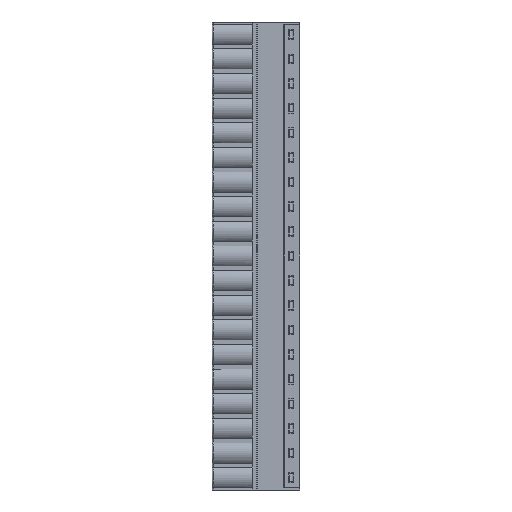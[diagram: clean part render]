
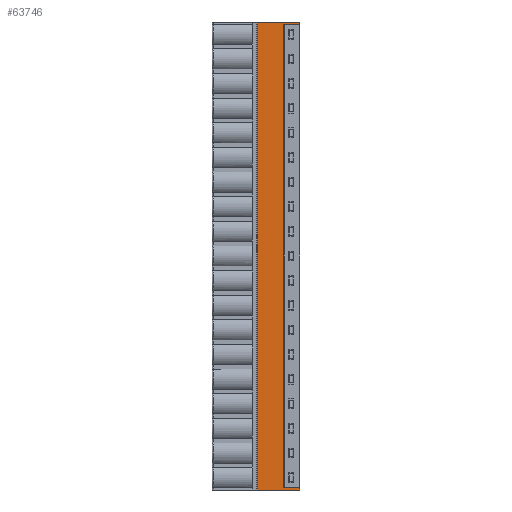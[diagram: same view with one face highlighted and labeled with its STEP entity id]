
A CAD part, left-side view. The second image highlights one B-rep face of the part: STEP entity #63746.
In plain terms, the highlighted planar face has unit normal (-1, 0, 0).
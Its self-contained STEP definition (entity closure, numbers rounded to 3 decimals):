
#365 = EDGE_CURVE ( 'NONE', #5732, #69005, #15734, .T. ) ;
#760 = VERTEX_POINT ( 'NONE', #12657 ) ;
#1983 = CARTESIAN_POINT ( 'NONE',  ( -3.9, 0.967, 0.49 ) ) ;
#2983 = DIRECTION ( 'NONE',  ( -1., 0., 0. ) ) ;
#5732 = VERTEX_POINT ( 'NONE', #14782 ) ;
#6236 = ORIENTED_EDGE ( 'NONE', *, *, #365, .T. ) ;
#6829 = LINE ( 'NONE', #12301, #55159 ) ;
#8298 = CARTESIAN_POINT ( 'NONE',  ( -3.9, 2.9, 0.49 ) ) ;
#9269 = CARTESIAN_POINT ( 'NONE',  ( -3.9, 3.167, 96.028 ) ) ;
#12301 = CARTESIAN_POINT ( 'NONE',  ( -3.9, 8.8, 96.52 ) ) ;
#12657 = CARTESIAN_POINT ( 'NONE',  ( -3.9, 3.3, 96.028 ) ) ;
#13417 = B_SPLINE_CURVE_WITH_KNOTS ( 'NONE', 3,
 ( #66199, #36158, #65428, #59944 ),
 .UNSPECIFIED., .F., .F.,
 ( 4, 4 ),
 ( 0., 1. ),
 .UNSPECIFIED. ) ;
#13698 = CARTESIAN_POINT ( 'NONE',  ( -3.9, 0., 0.49 ) ) ;
#14243 = ORIENTED_EDGE ( 'NONE', *, *, #45095, .F. ) ;
#14329 = CARTESIAN_POINT ( 'NONE',  ( -3.9, 3.033, 96.029 ) ) ;
#14782 = CARTESIAN_POINT ( 'NONE',  ( -3.9, 2.9, 96.03 ) ) ;
#15734 = B_SPLINE_CURVE_WITH_KNOTS ( 'NONE', 3,
 ( #25199, #55262, #25589, #54879 ),
 .UNSPECIFIED., .F., .F.,
 ( 4, 4 ),
 ( 0., 1. ),
 .UNSPECIFIED. ) ;
#16308 = CARTESIAN_POINT ( 'NONE',  ( -3.9, 8.8, 96.52 ) ) ;
#18303 = B_SPLINE_CURVE_WITH_KNOTS ( 'NONE', 3,
 ( #48042, #30474, #1983, #13698 ),
 .UNSPECIFIED., .F., .F.,
 ( 4, 4 ),
 ( 0., 1. ),
 .UNSPECIFIED. ) ;
#18622 = CARTESIAN_POINT ( 'NONE',  ( -3.9, 0., 0.49 ) ) ;
#20402 = DIRECTION ( 'NONE',  ( 0., 0., -1. ) ) ;
#21160 = DIRECTION ( 'NONE',  ( 0., 0., -1. ) ) ;
#22597 = CARTESIAN_POINT ( 'NONE',  ( -3.9, 3.3, 0.492 ) ) ;
#22909 = EDGE_CURVE ( 'NONE', #64968, #34967, #54743, .T. ) ;
#22940 = CARTESIAN_POINT ( 'NONE',  ( -3.9, 0., 96.52 ) ) ;
#23756 = LINE ( 'NONE', #36644, #34625 ) ;
#24367 = DIRECTION ( 'NONE',  ( 0., -1., 0. ) ) ;
#24561 = ORIENTED_EDGE ( 'NONE', *, *, #52170, .T. ) ;
#25180 = VECTOR ( 'NONE', #20402, 1000. ) ;
#25199 = CARTESIAN_POINT ( 'NONE',  ( -3.9, 2.9, 96.03 ) ) ;
#25589 = CARTESIAN_POINT ( 'NONE',  ( -3.9, 0.967, 96.03 ) ) ;
#26327 = VECTOR ( 'NONE', #57914, 1000. ) ;
#26395 = EDGE_CURVE ( 'NONE', #49536, #69005, #23756, .T. ) ;
#26418 = CARTESIAN_POINT ( 'NONE',  ( -3.9, 2.9, 96.03 ) ) ;
#26725 = EDGE_CURVE ( 'NONE', #59320, #50063, #13417, .T. ) ;
#27922 = DIRECTION ( 'NONE',  ( 0., 0., 1. ) ) ;
#28107 = VECTOR ( 'NONE', #31335, 1000. ) ;
#28457 = ORIENTED_EDGE ( 'NONE', *, *, #22909, .T. ) ;
#28624 = CARTESIAN_POINT ( 'NONE',  ( -3.9, 8.8, 0. ) ) ;
#30474 = CARTESIAN_POINT ( 'NONE',  ( -3.9, 1.933, 0.49 ) ) ;
#31167 = DIRECTION ( 'NONE',  ( 0., 0., -1. ) ) ;
#31335 = DIRECTION ( 'NONE',  ( 0., 0., -1. ) ) ;
#33289 = CARTESIAN_POINT ( 'NONE',  ( -3.9, 0., 0.49 ) ) ;
#33332 = EDGE_CURVE ( 'NONE', #760, #59320, #45774, .T. ) ;
#34111 = LINE ( 'NONE', #28624, #26327 ) ;
#34126 = AXIS2_PLACEMENT_3D ( 'NONE', #46276, #2983, #27922 ) ;
#34625 = VECTOR ( 'NONE', #31167, 1000. ) ;
#34967 = VERTEX_POINT ( 'NONE', #65541 ) ;
#36158 = CARTESIAN_POINT ( 'NONE',  ( -3.9, 3.167, 0.492 ) ) ;
#36644 = CARTESIAN_POINT ( 'NONE',  ( -3.9, 0., 96.52 ) ) ;
#41193 = CARTESIAN_POINT ( 'NONE',  ( -3.9, 0., 0. ) ) ;
#41788 = ORIENTED_EDGE ( 'NONE', *, *, #60991, .F. ) ;
#42000 = ORIENTED_EDGE ( 'NONE', *, *, #57088, .F. ) ;
#45095 = EDGE_CURVE ( 'NONE', #58202, #63902, #74270, .T. ) ;
#45774 = LINE ( 'NONE', #75789, #53532 ) ;
#45888 = FACE_OUTER_BOUND ( 'NONE', #65281, .T. ) ;
#46276 = CARTESIAN_POINT ( 'NONE',  ( -3.9, 8.9, 0. ) ) ;
#48042 = CARTESIAN_POINT ( 'NONE',  ( -3.9, 2.9, 0.49 ) ) ;
#49536 = VERTEX_POINT ( 'NONE', #22940 ) ;
#50044 = CARTESIAN_POINT ( 'NONE',  ( -3.9, 8.8, 96.52 ) ) ;
#50063 = VERTEX_POINT ( 'NONE', #8298 ) ;
#52170 = EDGE_CURVE ( 'NONE', #760, #5732, #66967, .T. ) ;
#53532 = VECTOR ( 'NONE', #21160, 1000. ) ;
#54743 = LINE ( 'NONE', #50044, #28107 ) ;
#54879 = CARTESIAN_POINT ( 'NONE',  ( -3.9, 0., 96.03 ) ) ;
#55159 = VECTOR ( 'NONE', #24367, 1000. ) ;
#55262 = CARTESIAN_POINT ( 'NONE',  ( -3.9, 1.933, 96.03 ) ) ;
#55454 = ORIENTED_EDGE ( 'NONE', *, *, #33332, .F. ) ;
#56102 = ORIENTED_EDGE ( 'NONE', *, *, #26725, .F. ) ;
#56428 = PLANE ( 'NONE',  #34126 ) ;
#57088 = EDGE_CURVE ( 'NONE', #64968, #49536, #6829, .T. ) ;
#57914 = DIRECTION ( 'NONE',  ( 0., -1., 0. ) ) ;
#58202 = VERTEX_POINT ( 'NONE', #18622 ) ;
#59320 = VERTEX_POINT ( 'NONE', #22597 ) ;
#59944 = CARTESIAN_POINT ( 'NONE',  ( -3.9, 2.9, 0.49 ) ) ;
#60991 = EDGE_CURVE ( 'NONE', #50063, #58202, #18303, .T. ) ;
#63527 = CARTESIAN_POINT ( 'NONE',  ( -3.9, 0., 96.03 ) ) ;
#63746 = ADVANCED_FACE ( 'NONE', ( #45888 ), #56428, .T. ) ;
#63902 = VERTEX_POINT ( 'NONE', #41193 ) ;
#64968 = VERTEX_POINT ( 'NONE', #16308 ) ;
#65281 = EDGE_LOOP ( 'NONE', ( #68285, #14243, #41788, #56102, #55454, #24561, #6236, #75178, #42000, #28457 ) ) ;
#65428 = CARTESIAN_POINT ( 'NONE',  ( -3.9, 3.033, 0.491 ) ) ;
#65541 = CARTESIAN_POINT ( 'NONE',  ( -3.9, 8.8, 0. ) ) ;
#66199 = CARTESIAN_POINT ( 'NONE',  ( -3.9, 3.3, 0.492 ) ) ;
#66967 = B_SPLINE_CURVE_WITH_KNOTS ( 'NONE', 3,
 ( #74422, #9269, #14329, #26418 ),
 .UNSPECIFIED., .F., .F.,
 ( 4, 4 ),
 ( 0., 1. ),
 .UNSPECIFIED. ) ;
#68285 = ORIENTED_EDGE ( 'NONE', *, *, #74274, .T. ) ;
#69005 = VERTEX_POINT ( 'NONE', #63527 ) ;
#74270 = LINE ( 'NONE', #33289, #25180 ) ;
#74274 = EDGE_CURVE ( 'NONE', #34967, #63902, #34111, .T. ) ;
#74422 = CARTESIAN_POINT ( 'NONE',  ( -3.9, 3.3, 96.028 ) ) ;
#75178 = ORIENTED_EDGE ( 'NONE', *, *, #26395, .F. ) ;
#75789 = CARTESIAN_POINT ( 'NONE',  ( -3.9, 3.3, 96.028 ) ) ;
